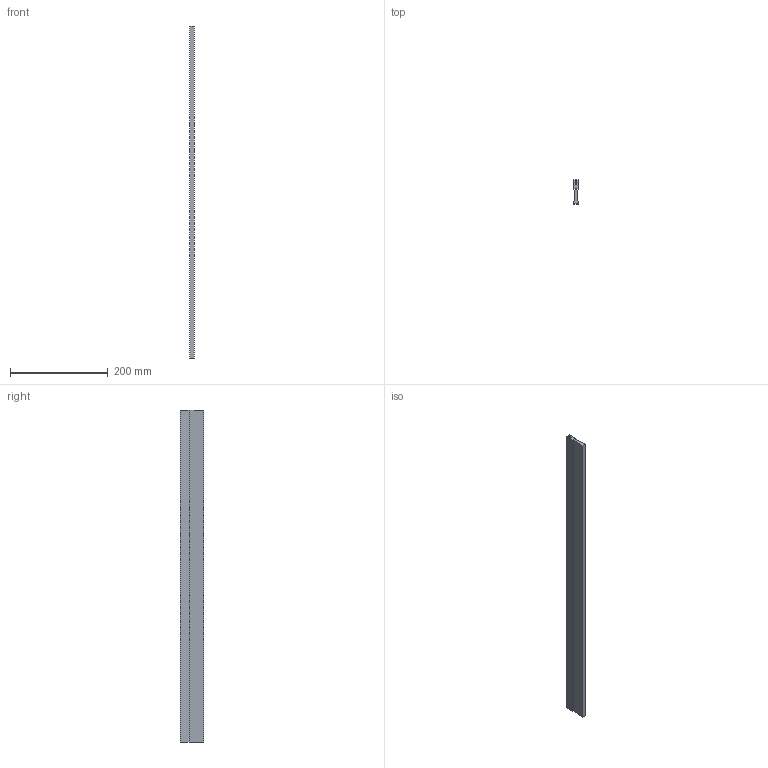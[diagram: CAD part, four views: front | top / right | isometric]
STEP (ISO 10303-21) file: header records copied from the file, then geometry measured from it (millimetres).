
FILE_DESCRIPTION (( 'STEP AP214' ), '1' );
FILE_NAME ('Ââîä ùåòî÷íûé ïëîñêèé, 2øò. G 68.3 B (678 ìì).step', '2023-01-10T13:12:37', ( '' ), ( '' ), 'SwSTEP 2.0', 'SolidWorks 2018', '' );
FILE_SCHEMA (( 'AUTOMOTIVE_DESIGN' ));
Length unit declared in the file: millimetre
Products named in the file (1): Ââîä ùåòî÷íûé ïëîñêèé, 2øò. G 68.3 B (678 ìì)
Bounding box: 9 x 48 x 678 mm (x, y, z)
Volume: 213570 mm3; surface area: 95307.6 mm2
Topology: 1 solids, 1 shells, 14 faces, 36 edges, 24 vertices
Faces by surface type: plane 14
Entity records: 454 total; most frequent: CARTESIAN_POINT 75, ORIENTED_EDGE 72, DIRECTION 66, VECTOR 36, EDGE_CURVE 36, LINE 36, VERTEX_POINT 24, AXIS2_PLACEMENT_3D 15
